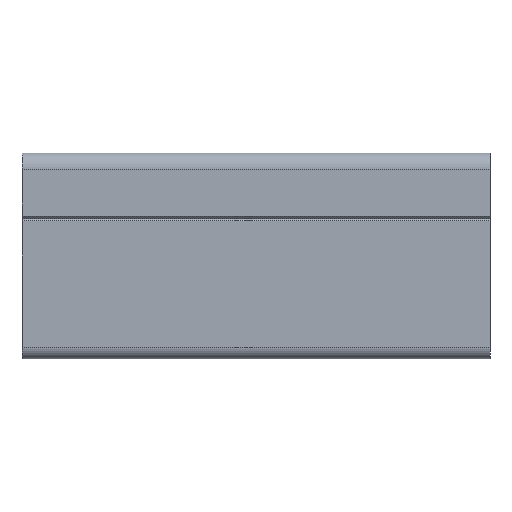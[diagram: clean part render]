
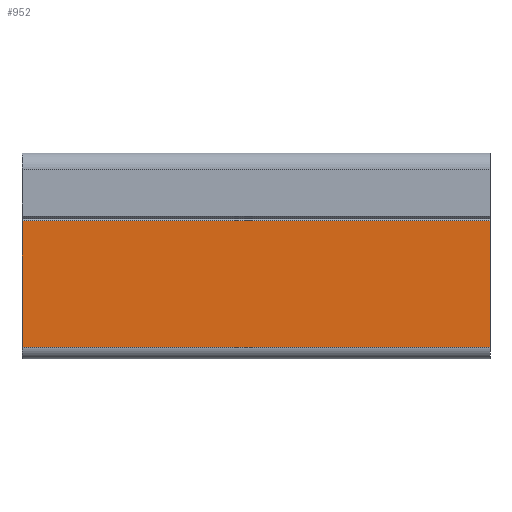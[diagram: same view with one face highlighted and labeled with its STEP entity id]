
A CAD part, front view. The second image highlights one B-rep face of the part: STEP entity #952.
In plain terms, the highlighted planar face has unit normal (0, -1, 0).
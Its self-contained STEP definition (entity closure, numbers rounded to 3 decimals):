
#47 = VECTOR ( 'NONE', #1686, 1000. ) ;
#180 = DIRECTION ( 'NONE',  ( 0., 0., 1. ) ) ;
#209 = DIRECTION ( 'NONE',  ( -1., 0., 0. ) ) ;
#218 = LINE ( 'NONE', #2137, #1192 ) ;
#225 = VERTEX_POINT ( 'NONE', #377 ) ;
#243 = ORIENTED_EDGE ( 'NONE', *, *, #1637, .F. ) ;
#297 = LINE ( 'NONE', #1248, #2168 ) ;
#377 = CARTESIAN_POINT ( 'NONE',  ( 0., 0., 29.5 ) ) ;
#471 = EDGE_CURVE ( 'NONE', #225, #765, #218, .T. ) ;
#662 = EDGE_CURVE ( 'NONE', #2254, #1804, #297, .T. ) ;
#748 = CARTESIAN_POINT ( 'NONE',  ( 0., 0., 2.5 ) ) ;
#765 = VERTEX_POINT ( 'NONE', #748 ) ;
#802 = CARTESIAN_POINT ( 'NONE',  ( 100., 0., 29.5 ) ) ;
#846 = CARTESIAN_POINT ( 'NONE',  ( 100., 0., 29.5 ) ) ;
#886 = CARTESIAN_POINT ( 'NONE',  ( 100., 0., 2.5 ) ) ;
#916 = ORIENTED_EDGE ( 'NONE', *, *, #1259, .T. ) ;
#952 = ADVANCED_FACE ( 'NONE', ( #1131 ), #1926, .F. ) ;
#978 = LINE ( 'NONE', #802, #47 ) ;
#992 = VECTOR ( 'NONE', #209, 1000. ) ;
#1131 = FACE_OUTER_BOUND ( 'NONE', #1386, .T. ) ;
#1192 = VECTOR ( 'NONE', #1598, 1000. ) ;
#1220 = DIRECTION ( 'NONE',  ( 0., 1., 0. ) ) ;
#1248 = CARTESIAN_POINT ( 'NONE',  ( 100., 0., 29.5 ) ) ;
#1259 = EDGE_CURVE ( 'NONE', #2254, #225, #978, .T. ) ;
#1291 = CARTESIAN_POINT ( 'NONE',  ( 100., 0., 2.5 ) ) ;
#1343 = ORIENTED_EDGE ( 'NONE', *, *, #662, .F. ) ;
#1386 = EDGE_LOOP ( 'NONE', ( #2231, #243, #1343, #916 ) ) ;
#1422 = DIRECTION ( 'NONE',  ( 0., 0., -1. ) ) ;
#1598 = DIRECTION ( 'NONE',  ( 0., 0., -1. ) ) ;
#1637 = EDGE_CURVE ( 'NONE', #1804, #765, #1934, .T. ) ;
#1686 = DIRECTION ( 'NONE',  ( -1., 0., 0. ) ) ;
#1804 = VERTEX_POINT ( 'NONE', #1291 ) ;
#1926 = PLANE ( 'NONE',  #2096 ) ;
#1934 = LINE ( 'NONE', #886, #992 ) ;
#2096 = AXIS2_PLACEMENT_3D ( 'NONE', #2280, #1220, #180 ) ;
#2137 = CARTESIAN_POINT ( 'NONE',  ( 0., 0., 29.5 ) ) ;
#2168 = VECTOR ( 'NONE', #1422, 1000. ) ;
#2231 = ORIENTED_EDGE ( 'NONE', *, *, #471, .T. ) ;
#2254 = VERTEX_POINT ( 'NONE', #846 ) ;
#2280 = CARTESIAN_POINT ( 'NONE',  ( 100., 0., 29.5 ) ) ;
